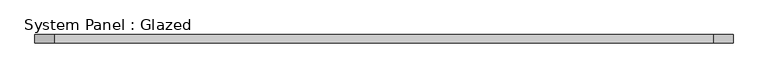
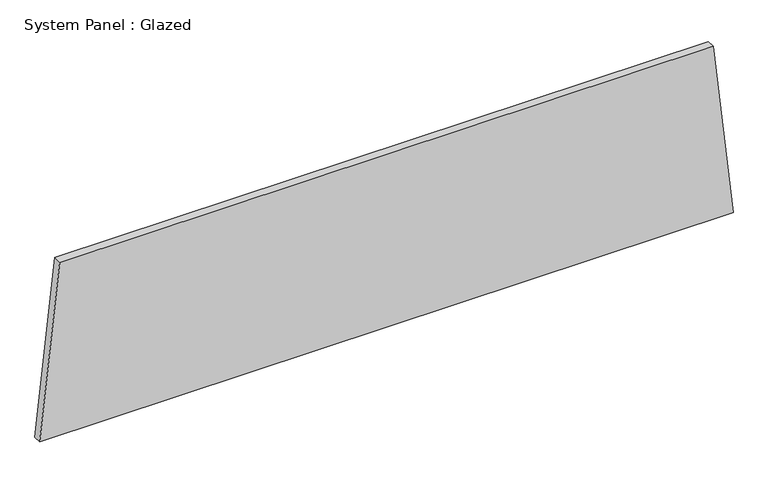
"""IFC4 building model written with IfcOpenShell, lengths in millimetres: plate geometry, System Panel : Glazed."""

import ifcopenshell
import ifcopenshell.guid

model = None  # the IFC model being written
_history = None  # IfcOwnerHistory: only IFC2X3 demands one
_inside = {}  # id of a spatial element -> (the spatial element, [elements in it])
_under = {}  # id of a project, library or spatial element -> (it, [spatial elements below it])
_declared = {}  # id of a project -> (the project, [libraries it declares])
_typed = {}  # id of a type object -> (the type object, [elements of that type])
_made_of = {}  # id of a material, layer set ... -> (it, [elements and type objects made of it])


def new_model(schema):
    """Start an empty IFC model of exactly this schema.

    Asked for "IFC4X3", IfcOpenShell would pick the latest addendum, in which some entities
    have other attributes; the version numbers below select the first issue.
    IFC2X3 requires an IfcOwnerHistory on every rooted entity: one is made here for all.
    """
    global model, _history
    if schema == "IFC4X3":
        model = ifcopenshell.file(schema_version=(4, 3, 0, 0))
    else:
        model = ifcopenshell.file(schema=schema)
    _inside.clear()
    _under.clear()
    _declared.clear()
    _typed.clear()
    _made_of.clear()
    _history = None
    if model.schema == "IFC2X3":
        org = make("IfcOrganization", Name="unknown")
        user = make(
            "IfcPersonAndOrganization",
            ThePerson=make("IfcPerson", FamilyName="unknown"),
            TheOrganization=org,
        )
        app = make(
            "IfcApplication",
            ApplicationDeveloper=org,
            Version="unknown",
            ApplicationFullName="unknown",
            ApplicationIdentifier="unknown",
        )
        _history = make(
            "IfcOwnerHistory",
            OwningUser=user,
            OwningApplication=app,
            ChangeAction="ADDED",
            CreationDate=0,
        )
    return model


def make(cls, **values):
    """One entity of the class cls with the attributes given. An attribute that is None is left unset."""
    return model.create_entity(
        cls, **{name: value for name, value in values.items() if value is not None}
    )


def rooted(cls, **values):
    """An entity with a GlobalId (a new one), such as an element, a storey or a relation."""
    return make(cls, GlobalId=ifcopenshell.guid.new(), OwnerHistory=_history, **values)


def si_unit(unit_type, name, prefix=None):
    """IfcSIUnit, for example si_unit("LENGTHUNIT", "METRE", prefix="MILLI")."""
    return make("IfcSIUnit", UnitType=unit_type, Prefix=prefix, Name=name)


def assignment(units):
    """IfcUnitAssignment: the units of a project."""
    return None if units is None else make("IfcUnitAssignment", Units=units)


def point(xyz):
    """IfcCartesianPoint."""
    return None if xyz is None else make("IfcCartesianPoint", Coordinates=xyz)


def direction(xyz):
    """IfcDirection."""
    return None if xyz is None else make("IfcDirection", DirectionRatios=xyz)


def frame(location, z_axis=None, x_axis=None):
    """IfcAxis2Placement3D, a coordinate frame: its origin and axes. An axis left out is left unset."""
    return make(
        "IfcAxis2Placement3D",
        Location=point(location),
        Axis=direction(z_axis),
        RefDirection=direction(x_axis),
    )


def origin():
    """The frame at (0, 0, 0) with its axes left unset."""
    return frame((0.0, 0.0, 0.0))


def place(relative_to, where):
    """IfcLocalPlacement: puts the frame where relative to a parent placement (None: the world)."""
    return make(
        "IfcLocalPlacement", PlacementRelTo=relative_to, RelativePlacement=where
    )


def context(
    kind, dimensions, precision=None, world=None, true_north=None, identifier=None
):
    """IfcGeometricRepresentationContext, for example the 3D "Model" context."""
    return make(
        "IfcGeometricRepresentationContext",
        ContextIdentifier=identifier,
        ContextType=kind,
        CoordinateSpaceDimension=dimensions,
        Precision=precision,
        WorldCoordinateSystem=world,
        TrueNorth=true_north,
    )


def project(units=None, contexts=None):
    """IfcProject with its units and contexts."""
    return rooted(
        "IfcProject",
        Name="project",
        RepresentationContexts=contexts,
        UnitsInContext=assignment(units),
    )


def spatial(cls, under=None, at=None, **own):
    """A site, building, storey or space (cls), placed at a placement, below another one or the project."""
    s = rooted(cls, ObjectPlacement=at, **own)
    if under is not None:
        _under.setdefault(under.id(), (under, []))[1].append(s)
    return s


def polyline(points):
    """IfcPolyline through the points."""
    return make("IfcPolyline", Points=[point(p) for p in points])


def outline(outer, holes=None, kind="AREA"):
    """IfcArbitraryClosedProfileDef: a profile drawn as a closed curve; with holes, ...WithVoids."""
    if holes is None:
        return make("IfcArbitraryClosedProfileDef", ProfileType=kind, OuterCurve=outer)
    return make(
        "IfcArbitraryProfileDefWithVoids",
        ProfileType=kind,
        OuterCurve=outer,
        InnerCurves=holes,
    )


def extrude(swept, where, along, depth):
    """IfcExtrudedAreaSolid: the profile swept, set in the frame where, extruded along a direction by depth."""
    return make(
        "IfcExtrudedAreaSolid",
        SweptArea=swept,
        Position=where,
        ExtrudedDirection=direction(along),
        Depth=depth,
    )


def shape(context_of_items, identifier, shape_type, items):
    """IfcShapeRepresentation: the items that make up one representation, for example the "Body"."""
    return make(
        "IfcShapeRepresentation",
        ContextOfItems=context_of_items,
        RepresentationIdentifier=identifier,
        RepresentationType=shape_type,
        Items=items,
    )


def source(mapping_origin, context_of_items, identifier, shape_type, items):
    """IfcRepresentationMap: a shape defined once, which mapped items show again and again."""
    return make(
        "IfcRepresentationMap",
        MappingOrigin=mapping_origin,
        MappedRepresentation=shape(context_of_items, identifier, shape_type, items),
    )


def transform(
    local_origin,
    x_axis=None,
    y_axis=None,
    z_axis=None,
    scale=None,
    scale2=None,
    scale3=None,
    uniform=True,
):
    """IfcCartesianTransformationOperator3D, or its non-uniform kind. x_axis, y_axis, z_axis: its Axis1, 2, 3."""
    if uniform:
        return make(
            "IfcCartesianTransformationOperator3D",
            Axis1=direction(x_axis),
            Axis2=direction(y_axis),
            LocalOrigin=point(local_origin),
            Scale=scale,
            Axis3=direction(z_axis),
        )
    return make(
        "IfcCartesianTransformationOperator3DnonUniform",
        Axis1=direction(x_axis),
        Axis2=direction(y_axis),
        LocalOrigin=point(local_origin),
        Scale=scale,
        Axis3=direction(z_axis),
        Scale2=scale2,
        Scale3=scale3,
    )


def mapped(mapping_source, mapping_target):
    """IfcMappedItem: shows the shape of a source again, moved by a transform."""
    return make(
        "IfcMappedItem", MappingSource=mapping_source, MappingTarget=mapping_target
    )


def made_of(thing, what):
    """Note that an element or type object is made of a material, layer set ...; save() writes the relation."""
    if what is not None:
        _made_of.setdefault(what.id(), (what, []))[1].append(thing)
    return thing


def element(
    cls,
    number,
    at=None,
    inside=None,
    cuts=None,
    type_object=None,
    material=None,
    context=None,
    identifier="Body",
    shape_type=None,
    held_by="IfcProductDefinitionShape",
    body=None,
    shapes=None,
    **own,
):
    """One element of the class cls, such as IfcWall. Its Tag is "e" and its number.

    at: its placement. inside: the storey or other place that contains it. cuts: it is an
    opening in that element (IfcRelVoidsElement). A single representation is given by context,
    identifier, shape_type and body (its items); several are given by shapes. held_by: the class
    of the entity that holds the representations. save() writes the other relations.
    """
    e = rooted(cls, Tag="e%d" % number, ObjectPlacement=at, **own)
    if body is not None:
        shapes = [shape(context, identifier, shape_type, body)]
    if shapes is not None:
        e.Representation = make(held_by, Representations=shapes)
    if inside is not None:
        _inside.setdefault(inside.id(), (inside, []))[1].append(e)
    if cuts is not None:
        rooted(
            "IfcRelVoidsElement", RelatingBuildingElement=cuts, RelatedOpeningElement=e
        )
    if type_object is not None:
        _typed.setdefault(type_object.id(), (type_object, []))[1].append(e)
    return made_of(e, material)


def aggregate(whole, parts):
    """IfcRelAggregates: a whole, such as a stair, and the parts it consists of."""
    return rooted("IfcRelAggregates", RelatingObject=whole, RelatedObjects=parts)


def save(model, path):
    """Write the relations noted so far, then the file.

    IfcRelAggregates (storeys below a building ...), IfcRelContainedInSpatialStructure (elements
    in a storey), IfcRelDefinesByType, IfcRelAssociatesMaterial and IfcRelDeclares: one each for
    every whole, place, type object, material and project.
    """
    for whole, parts in _under.values():
        aggregate(whole, parts)
    for where, things in _inside.values():
        rooted(
            "IfcRelContainedInSpatialStructure",
            RelatedElements=things,
            RelatingStructure=where,
        )
    for kind, things in _typed.values():
        rooted("IfcRelDefinesByType", RelatedObjects=things, RelatingType=kind)
    for what, things in _made_of.values():
        rooted("IfcRelAssociatesMaterial", RelatedObjects=things, RelatingMaterial=what)
    for by, libraries in _declared.values():
        rooted("IfcRelDeclares", RelatingContext=by, RelatedDefinitions=libraries)
    model.write(path)


def system_panel_glazed_8ed0c2f1(model_context):
    return source(origin(), model_context, "Body", "SweptSolid", [
        extrude(outline(polyline([(0.0, -1075.5484911), (0.0, 1075.5484911), (567.915181, 1013.6853958), (567.915181, -1013.6853958), (0.0, -1075.5484911)])), frame((0.0, 19.05, 0.0), z_axis=(0.0, 1.0, 0.0), x_axis=(0.0, 0.0, 1.0)), (0.0, 0.0, 1.0), 25.4),
    ])


if __name__ == "__main__":
    model = new_model("IFC4")
    model_context = context("Model", 3, world=origin())
    ifc_project = project(units=[si_unit("LENGTHUNIT", "METRE", prefix="MILLI")], contexts=[model_context])
    site = spatial("IfcSite", under=ifc_project)
    building = spatial("IfcBuilding", under=site)
    placement = place(None, origin())
    system_panel_glazed_shape = system_panel_glazed_8ed0c2f1(model_context)
    element("IfcPlate", 1, ObjectType="System Panel : Glazed", at=placement, inside=building, context=model_context, shape_type="MappedRepresentation", body=[
        mapped(system_panel_glazed_shape, transform((0.0, 0.0, 0.0), x_axis=(1.0, 0.0, 0.0), y_axis=(0.0, 1.0, 0.0), z_axis=(0.0, 0.0, 1.0))),
    ])
    save(model, "model.ifc")
